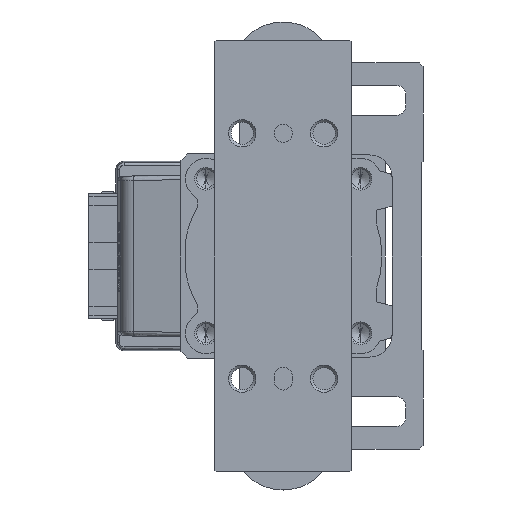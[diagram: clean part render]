
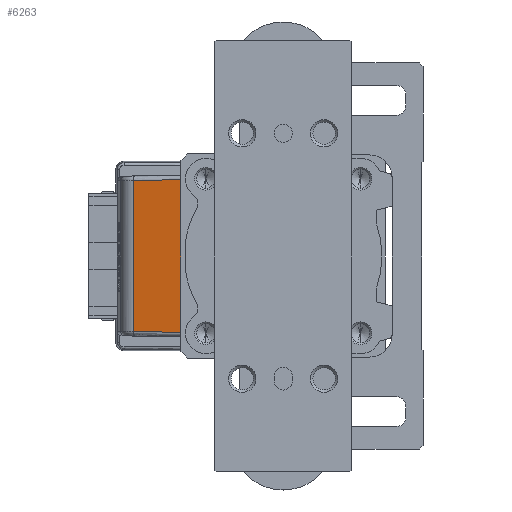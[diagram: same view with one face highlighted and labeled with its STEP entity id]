
A CAD part, left-side view. The second image highlights one B-rep face of the part: STEP entity #6263.
In plain terms, the highlighted planar face has unit normal (-0.985, 0.174, 0) as drawn and (0, 0.174, 0.985) by its records, which use the part's own axes.
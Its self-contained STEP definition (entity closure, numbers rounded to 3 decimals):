
#2982 = VERTEX_POINT ( 'NONE', #32827 ) ;
#3069 = AXIS2_PLACEMENT_3D ( 'NONE', #27283, #6937, #33808 ) ;
#3616 = ORIENTED_EDGE ( 'NONE', *, *, #18644, .T. ) ;
#3699 = EDGE_CURVE ( 'NONE', #39585, #19538, #39782, .T. ) ;
#3912 = ORIENTED_EDGE ( 'NONE', *, *, #3699, .T. ) ;
#4279 = EDGE_CURVE ( 'NONE', #19538, #16725, #20141, .T. ) ;
#6263 = ADVANCED_FACE ( 'NONE', ( #35739 ), #26026, .F. ) ;
#6937 = DIRECTION ( 'NONE',  ( 0., -0.174, -0.985 ) ) ;
#8032 = EDGE_LOOP ( 'NONE', ( #3912, #9649, #42603, #3616 ) ) ;
#9649 = ORIENTED_EDGE ( 'NONE', *, *, #4279, .T. ) ;
#10970 = CARTESIAN_POINT ( 'NONE',  ( 0., 21., -38.277 ) ) ;
#11489 = VECTOR ( 'NONE', #40108, 1000. ) ;
#13117 = CARTESIAN_POINT ( 'NONE',  ( 16.617, 32.922, -40.379 ) ) ;
#13621 = CARTESIAN_POINT ( 'NONE',  ( 16.617, 32.905, -40.376 ) ) ;
#15083 = CARTESIAN_POINT ( 'NONE',  ( -16.617, 32.922, -40.379 ) ) ;
#16725 = VERTEX_POINT ( 'NONE', #24315 ) ;
#16769 = DIRECTION ( 'NONE',  ( 1., 0., 0. ) ) ;
#18644 = EDGE_CURVE ( 'NONE', #2982, #39585, #23433, .T. ) ;
#19538 = VERTEX_POINT ( 'NONE', #15083 ) ;
#20141 = LINE ( 'NONE', #26950, #11489 ) ;
#23433 = LINE ( 'NONE', #13621, #30322 ) ;
#24315 = CARTESIAN_POINT ( 'NONE',  ( -16.825, 21., -38.277 ) ) ;
#26026 = PLANE ( 'NONE',  #3069 ) ;
#26662 = DIRECTION ( 'NONE',  ( -0.017, 0.985, -0.174 ) ) ;
#26800 = EDGE_CURVE ( 'NONE', #16725, #2982, #40404, .T. ) ;
#26950 = CARTESIAN_POINT ( 'NONE',  ( -16.825, 20.983, -38.274 ) ) ;
#27283 = CARTESIAN_POINT ( 'NONE',  ( 0., 21.26, -38.323 ) ) ;
#28168 = VECTOR ( 'NONE', #36571, 1000. ) ;
#30322 = VECTOR ( 'NONE', #26662, 1000. ) ;
#30637 = VECTOR ( 'NONE', #16769, 1000. ) ;
#32827 = CARTESIAN_POINT ( 'NONE',  ( 16.825, 21., -38.277 ) ) ;
#33808 = DIRECTION ( 'NONE',  ( 1., 0., 0. ) ) ;
#35739 = FACE_OUTER_BOUND ( 'NONE', #8032, .T. ) ;
#36156 = CARTESIAN_POINT ( 'NONE',  ( -17.568, 32.922, -40.379 ) ) ;
#36571 = DIRECTION ( 'NONE',  ( -1., 0., 0. ) ) ;
#39585 = VERTEX_POINT ( 'NONE', #13117 ) ;
#39782 = LINE ( 'NONE', #36156, #28168 ) ;
#40108 = DIRECTION ( 'NONE',  ( -0.017, -0.985, 0.174 ) ) ;
#40404 = LINE ( 'NONE', #10970, #30637 ) ;
#42603 = ORIENTED_EDGE ( 'NONE', *, *, #26800, .T. ) ;
